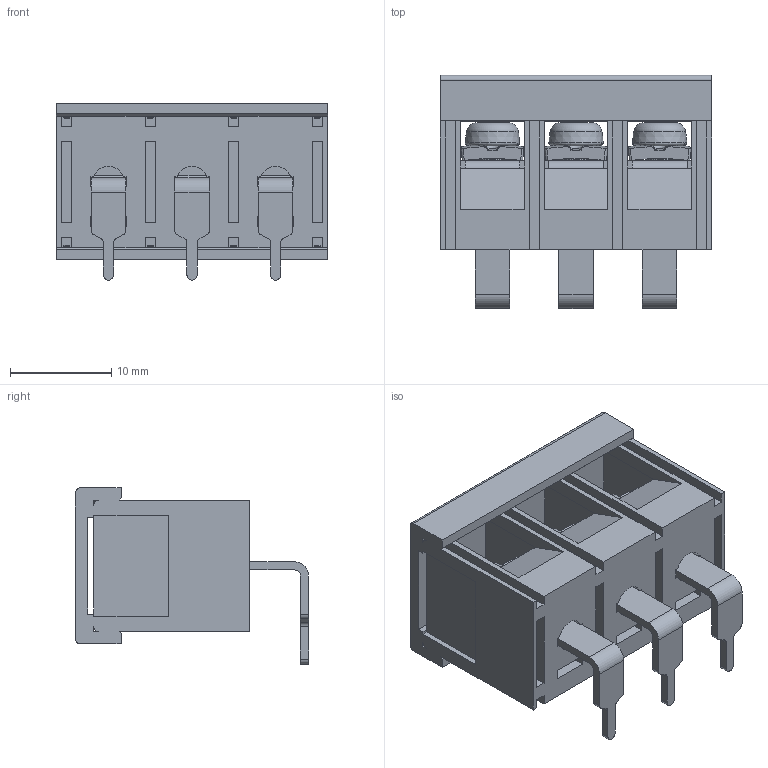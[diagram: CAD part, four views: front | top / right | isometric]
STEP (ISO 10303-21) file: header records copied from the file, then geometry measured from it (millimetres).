
FILE_DESCRIPTION((''),'2;1');
FILE_NAME('3PIN','2021-05-07T',('hanke'),(''),'CREO PARAMETRIC BY PTC INC, 2016260','CREO PARAMETRIC BY PTC INC, 2016260','');
FILE_SCHEMA(('CONFIG_CONTROL_DESIGN'));
Products named in the file (1): 3PIN
Bounding box: 26.75 x 23 x 17.4 mm (x, y, z)
Volume: 3414.9 mm3; surface area: 6462.8 mm2
Topology: 1 solids, 1 shells, 1167 faces, 3420 edges, 2207 vertices
Faces by surface type: plane 693, cylinder 248, bspline 98, torus 74, sphere 36, cone 18
Entity records: 55512 total; most frequent: CARTESIAN_POINT 25409, ORIENTED_EDGE 6828, DIRECTION 5603, EDGE_CURVE 3414, VERTEX_POINT 2207, VECTOR 2103, LINE 2103, AXIS2_PLACEMENT_3D 1750
